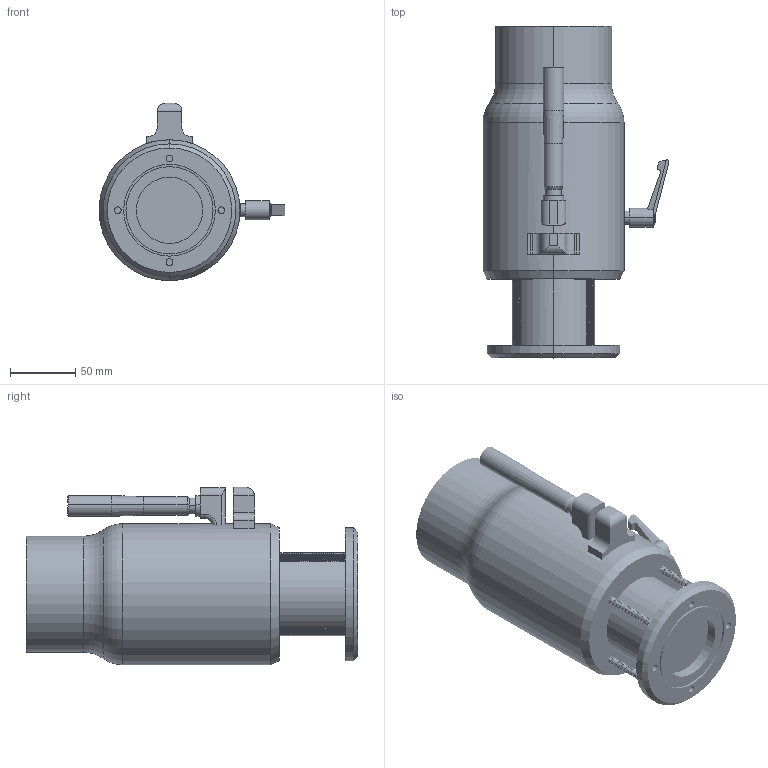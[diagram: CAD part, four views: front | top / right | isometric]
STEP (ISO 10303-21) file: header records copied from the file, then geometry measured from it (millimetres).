
FILE_DESCRIPTION (( 'STEP AP214' ), '1' );
FILE_NAME ('LAM-50-50-VE.STEP', '2017-05-02T20:17:26', ( '' ), ( '' ), 'SwSTEP 2.0', 'SolidWorks 2017', '' );
FILE_SCHEMA (( 'AUTOMOTIVE_DESIGN' ));
Length unit declared in the file: inch
Products named in the file (1): LAM-50-50-VE
Bounding box: 142.36 x 254 x 135.89 mm (x, y, z)
Volume: 2476676.2 mm3; surface area: 260361.9 mm2
Topology: 16 solids, 16 shells, 366 faces, 808 edges, 486 vertices
Faces by surface type: cylinder 124, cone 100, plane 96, torus 38, bspline 8
Entity records: 76175 total; most frequent: CARTESIAN_POINT 67697, DIRECTION 1916, ORIENTED_EDGE 1596, EDGE_CURVE 798, AXIS2_PLACEMENT_3D 785, VERTEX_POINT 486, CIRCLE 426, EDGE_LOOP 388
